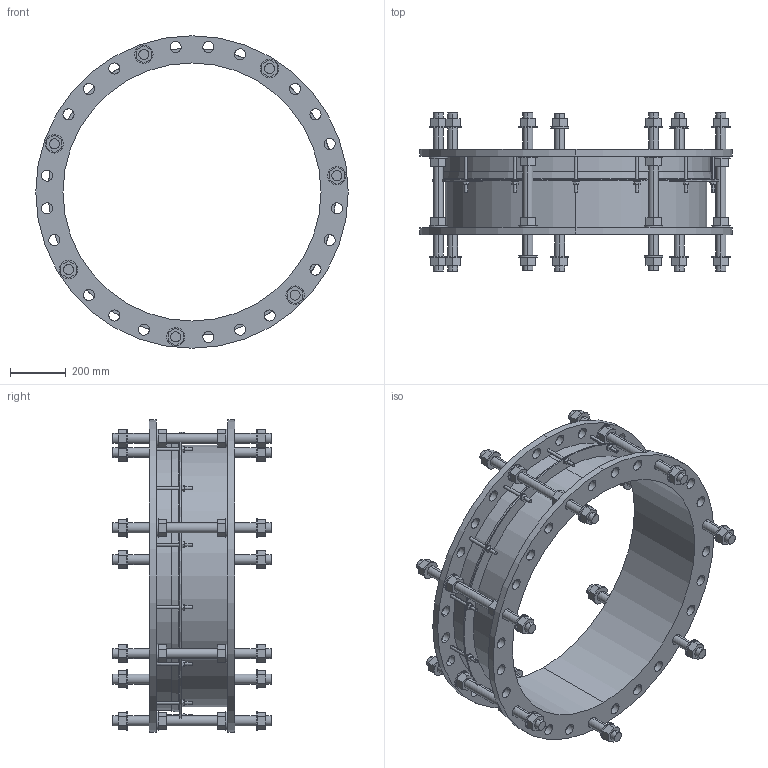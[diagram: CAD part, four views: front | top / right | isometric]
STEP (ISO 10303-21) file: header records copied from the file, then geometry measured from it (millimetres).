
FILE_DESCRIPTION((''),'2;1');
FILE_NAME('YF2_DJ_BIM_ASM','2020-11-30T',('mfairey'),('Glynwed Pipe Systems'),'CREO PARAMETRIC BY PTC INC, 2016130','CREO PARAMETRIC BY PTC INC, 2016130','');
FILE_SCHEMA(('CONFIG_CONTROL_DESIGN'));
Length unit declared in the file: millimetre
Products named in the file (3): DJ_AF0; TIE_BOLT_BIM; YF2_DJ_BIM_ASM
Assembly tree (8 placements, depth 2):
  YF2_DJ_BIM_ASM
    DJ_AF0
    TIE_BOLT_BIM  x7
Bounding box: 1125 x 570 x 1125 mm (x, y, z)
Volume: 29396640.1 mm3; surface area: 4047953 mm2
Topology: 8 solids, 8 shells, 762 faces, 1866 edges, 1234 vertices
Faces by surface type: plane 412, cylinder 346, cone 4
Entity records: 14705 total; most frequent: CARTESIAN_POINT 3403, DIRECTION 2448, ORIENTED_EDGE 2220, EDGE_CURVE 1110, AXIS2_PLACEMENT_3D 940, VERTEX_POINT 730, EDGE_LOOP 610, VECTOR 568
